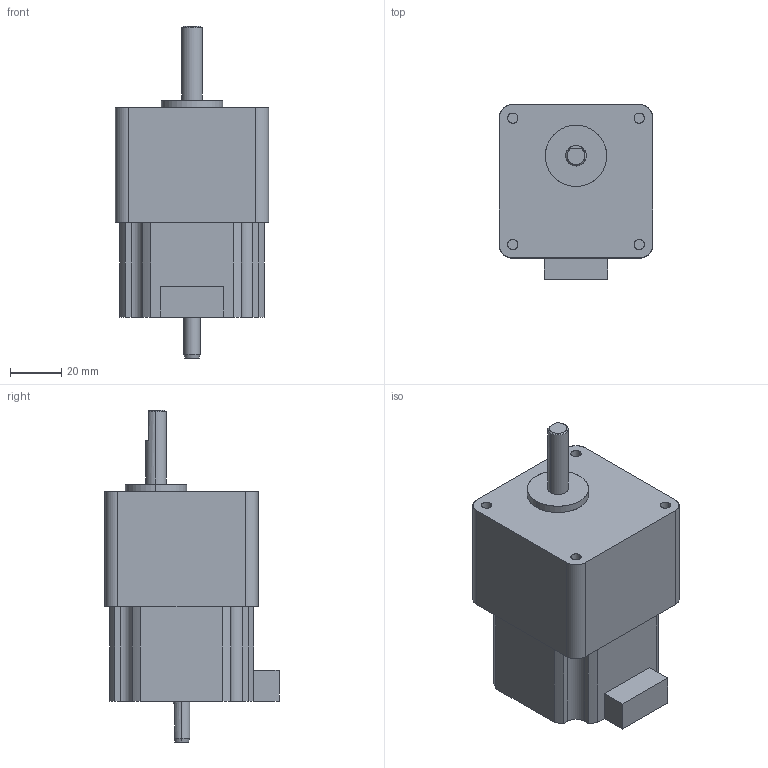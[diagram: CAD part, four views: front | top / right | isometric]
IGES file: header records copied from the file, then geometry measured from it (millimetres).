
Start section: SolidWorks IGES file using analytic representation for surfaces
Global section: file name: \\192.168.10.221\kari\7666\PMSA-U56D1D-S(IGES—p).IGS; native system: SolidWorks 2009; preprocessor: SolidWorks 2009; author: 3dcad; date: 110826.153413; units: millimetre
Bounding box: 60 x 68.2 x 130 mm (x, y, z)
Surface area: 27595 mm2 (no closed solid volume)
Topology: 0 solids, 0 shells, 70 faces, 890 edges, 890 vertices
Faces by surface type: revolution 36, bspline 34
